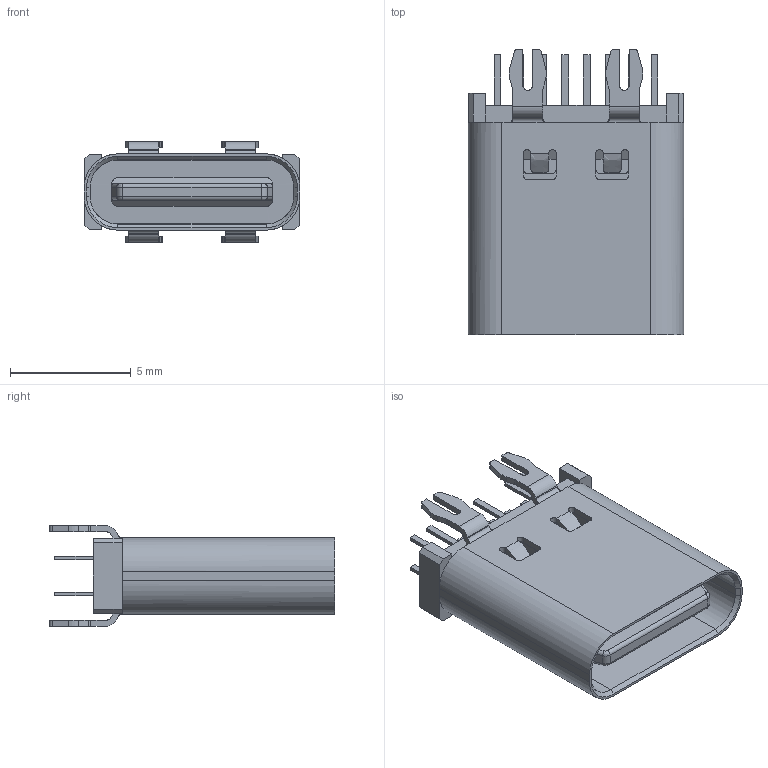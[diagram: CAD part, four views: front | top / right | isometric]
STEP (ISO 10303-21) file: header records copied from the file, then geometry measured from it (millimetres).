
FILE_DESCRIPTION((''),'2;1');
FILE_NAME('TYPE_C_180_SW0003','2023-11-08T',('Administrator'),(''),'PRO/ENGINEER BY PARAMETRIC TECHNOLOGY CORPORATION, 2011310','PRO/ENGINEER BY PARAMETRIC TECHNOLOGY CORPORATION, 2011310','');
FILE_SCHEMA(('CONFIG_CONTROL_DESIGN'));
Length unit declared in the file: millimetre
Products named in the file (1): TYPE_C_180_SW0003
Bounding box: 8.94 x 11.82 x 4.16 mm (x, y, z)
Volume: 175.6 mm3; surface area: 617.9 mm2
Topology: 1 solids, 1 shells, 388 faces, 1046 edges, 672 vertices
Faces by surface type: plane 242, cylinder 94, bspline 48, cone 4
Entity records: 13779 total; most frequent: CARTESIAN_POINT 4113, ORIENTED_EDGE 2092, DIRECTION 1862, EDGE_CURVE 1046, VECTOR 734, LINE 734, VERTEX_POINT 672, AXIS2_PLACEMENT_3D 564
